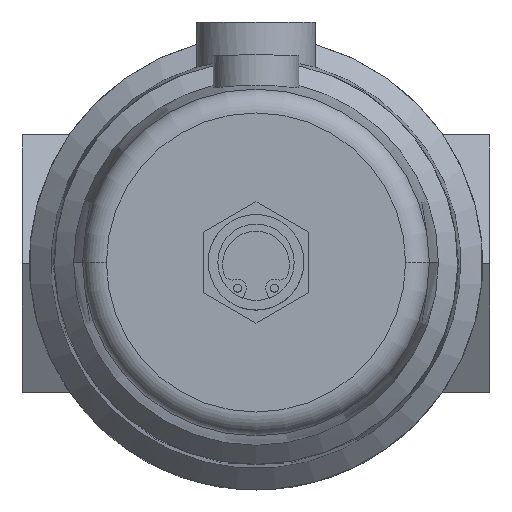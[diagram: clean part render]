
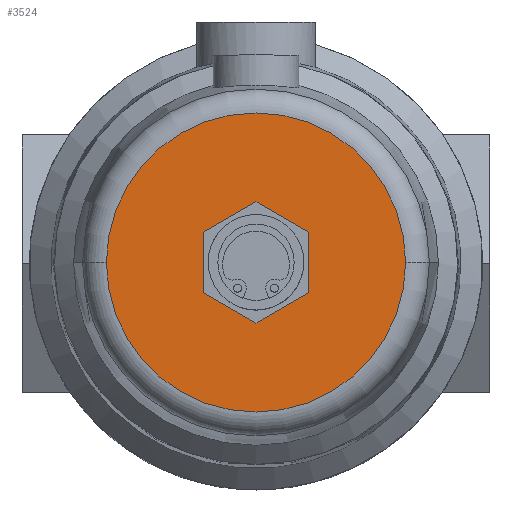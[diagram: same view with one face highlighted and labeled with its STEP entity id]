
A CAD part, top view. The second image highlights one B-rep face of the part: STEP entity #3524.
In plain terms, the highlighted planar face has unit normal (0, 0, 1).
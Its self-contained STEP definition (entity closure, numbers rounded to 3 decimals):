
#1229=CARTESIAN_POINT('',(0.,0.,175.));
#1230=DIRECTION('',(0.,0.,1.));
#1231=DIRECTION('',(-1.,0.,0.));
#1232=AXIS2_PLACEMENT_3D('',#1229,#1230,#1231);
#1234=CARTESIAN_POINT('',(0.,0.,175.));
#1235=DIRECTION('',(0.,0.,1.));
#1236=DIRECTION('',(1.,0.,0.));
#1237=AXIS2_PLACEMENT_3D('',#1234,#1235,#1236);
#1239=CARTESIAN_POINT('',(0.,0.,175.));
#1240=DIRECTION('',(0.,0.,1.));
#1241=DIRECTION('',(0.,1.,0.));
#1242=AXIS2_PLACEMENT_3D('',#1239,#1240,#1241);
#1244=CARTESIAN_POINT('',(0.,0.,175.));
#1245=DIRECTION('',(0.,0.,1.));
#1246=DIRECTION('',(0.,-1.,0.));
#1247=AXIS2_PLACEMENT_3D('',#1244,#1245,#1246);
#1747=CARTESIAN_POINT('',(-31.335,0.,175.));
#1748=CARTESIAN_POINT('',(31.335,0.,175.));
#1749=VERTEX_POINT('',#1747);
#1750=VERTEX_POINT('',#1748);
#1953=CARTESIAN_POINT('',(0.,10.5,175.));
#1954=CARTESIAN_POINT('',(0.,-10.5,175.));
#1955=VERTEX_POINT('',#1953);
#1956=VERTEX_POINT('',#1954);
#3508=CARTESIAN_POINT('',(0.,0.,175.));
#3509=DIRECTION('',(0.,0.,-1.));
#3510=DIRECTION('',(1.,0.,0.));
#3511=AXIS2_PLACEMENT_3D('',#3508,#3509,#3510);
#3512=PLANE('',#3511);
#3513=ORIENTED_EDGE('',*,*,#3498,.F.);
#3515=ORIENTED_EDGE('',*,*,#3514,.F.);
#3516=EDGE_LOOP('',(#3513,#3515));
#3517=FACE_OUTER_BOUND('',#3516,.F.);
#3519=ORIENTED_EDGE('',*,*,#3518,.T.);
#3521=ORIENTED_EDGE('',*,*,#3520,.T.);
#3522=EDGE_LOOP('',(#3519,#3521));
#3523=FACE_BOUND('',#3522,.F.);
#3524=ADVANCED_FACE('',(#3517,#3523),#3512,.F.);
#1233=CIRCLE('',#1232,31.335);
#1238=CIRCLE('',#1237,31.335);
#1243=CIRCLE('',#1242,10.5);
#1248=CIRCLE('',#1247,10.5);
#3498=EDGE_CURVE('',#1749,#1750,#1233,.T.);
#3514=EDGE_CURVE('',#1750,#1749,#1238,.T.);
#3518=EDGE_CURVE('',#1955,#1956,#1243,.T.);
#3520=EDGE_CURVE('',#1956,#1955,#1248,.T.);
